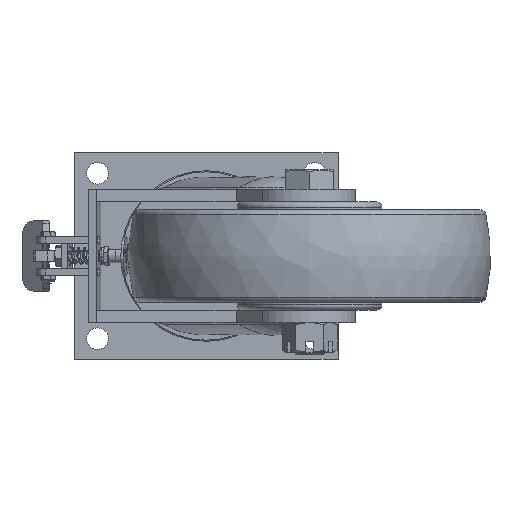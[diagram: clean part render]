
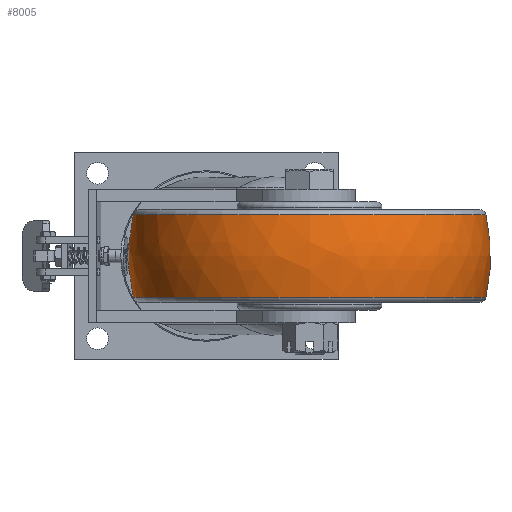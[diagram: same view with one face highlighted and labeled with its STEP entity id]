
A CAD part, front view. The second image highlights one B-rep face of the part: STEP entity #8005.
In plain terms, the highlighted free-form (B-spline) face has degree [3, 3] with [7, 4] control points.
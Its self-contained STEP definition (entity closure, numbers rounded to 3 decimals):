
#7436=CARTESIAN_POINT('',(100.,-255.,39.95));
#7437=DIRECTION('',(0.,0.,1.));
#7438=DIRECTION('',(-1.,0.,0.));
#7439=AXIS2_PLACEMENT_3D('',#7436,#7437,#7438);
#7441=CARTESIAN_POINT('',(105.,-255.,0.));
#7442=DIRECTION('',(0.,1.,0.));
#7443=DIRECTION('',(-0.975,0.,-0.222));
#7444=AXIS2_PLACEMENT_3D('',#7441,#7442,#7443);
#7446=CARTESIAN_POINT('',(95.,-255.,0.));
#7447=DIRECTION('',(0.,-1.,0.));
#7448=DIRECTION('',(0.975,0.,-0.222));
#7449=AXIS2_PLACEMENT_3D('',#7446,#7447,#7448);
#7451=CARTESIAN_POINT('',(100.,-255.,-39.95));
#7452=DIRECTION('',(0.,0.,1.));
#7453=DIRECTION('',(-1.,0.,0.));
#7454=AXIS2_PLACEMENT_3D('',#7451,#7452,#7453);
#7623=CARTESIAN_POINT('',(-70.511,-255.,-39.95));
#7624=VERTEX_POINT('',#7623);
#7625=CARTESIAN_POINT('',(-70.511,-255.,39.95));
#7626=VERTEX_POINT('',#7625);
#7659=CARTESIAN_POINT('',(270.511,-255.,-39.95));
#7660=VERTEX_POINT('',#7659);
#7661=CARTESIAN_POINT('',(270.511,-255.,39.95));
#7662=VERTEX_POINT('',#7661);
#7967=CARTESIAN_POINT('',(269.81,-244.316,41.519));
#7968=CARTESIAN_POINT('',(276.299,-243.908,14.093));
#7969=CARTESIAN_POINT('',(276.299,-243.908,
-14.093));
#7970=CARTESIAN_POINT('',(269.81,-244.316,
-41.519));
#7971=CARTESIAN_POINT('',(276.385,-348.818,41.519));
#7972=CARTESIAN_POINT('',(283.125,-352.402,14.093));
#7973=CARTESIAN_POINT('',(283.125,-352.402,
-14.093));
#7974=CARTESIAN_POINT('',(276.385,-348.818,
-41.519));
#7975=CARTESIAN_POINT('',(204.708,-425.146,41.519));
#7976=CARTESIAN_POINT('',(208.709,-431.648,14.093));
#7977=CARTESIAN_POINT('',(208.709,-431.648,
-14.093));
#7978=CARTESIAN_POINT('',(204.708,-425.146,
-41.519));
#7979=CARTESIAN_POINT('',(100.,-425.146,41.519));
#7980=CARTESIAN_POINT('',(100.,-431.648,14.093));
#7981=CARTESIAN_POINT('',(100.,-431.648,-14.093));
#7982=CARTESIAN_POINT('',(100.,-425.146,-41.519));
#7983=CARTESIAN_POINT('',(-4.708,-425.146,
41.519));
#7984=CARTESIAN_POINT('',(-8.709,-431.648,
14.093));
#7985=CARTESIAN_POINT('',(-8.709,-431.648,
-14.093));
#7986=CARTESIAN_POINT('',(-4.708,-425.146,
-41.519));
#7987=CARTESIAN_POINT('',(-76.385,-348.818,
41.519));
#7988=CARTESIAN_POINT('',(-83.125,-352.402,
14.093));
#7989=CARTESIAN_POINT('',(-83.125,-352.402,
-14.093));
#7990=CARTESIAN_POINT('',(-76.385,-348.818,
-41.519));
#7991=CARTESIAN_POINT('',(-69.81,-244.316,
41.519));
#7992=CARTESIAN_POINT('',(-76.299,-243.908,
14.093));
#7993=CARTESIAN_POINT('',(-76.299,-243.908,
-14.093));
#7994=CARTESIAN_POINT('',(-69.81,-244.316,
-41.519));
#7995=(BOUNDED_SURFACE()B_SPLINE_SURFACE(3,3,((#7967,#7968,#7969,#7970),(#7971,
#7972,#7973,#7974),(#7975,#7976,#7977,#7978),(#7979,#7980,#7981,#7982),(#7983,
#7984,#7985,#7986),(#7987,#7988,#7989,#7990),(#7991,#7992,#7993,#7994)),
.UNSPECIFIED.,.F.,.F.,.F.)B_SPLINE_SURFACE_WITH_KNOTS((4,3,4),(4,4),(0.,1.,
2.),(0.,1.),.UNSPECIFIED.)GEOMETRIC_REPRESENTATION_ITEM()RATIONAL_B_SPLINE_SURFACE(((1.203,1.182,1.182,1.203),(
0.95,0.933,0.933,0.95),(
0.95,0.933,0.933,0.95),(
1.203,1.182,1.182,1.203),(
0.95,0.933,0.933,0.95),(
0.95,0.933,0.933,0.95),(
1.203,1.182,1.182,1.203)))REPRESENTATION_ITEM('')SURFACE());
#7997=ORIENTED_EDGE('',*,*,#7996,.T.);
#7998=ORIENTED_EDGE('',*,*,#7955,.T.);
#8000=ORIENTED_EDGE('',*,*,#7999,.F.);
#8002=ORIENTED_EDGE('',*,*,#8001,.F.);
#8003=EDGE_LOOP('',(#7997,#7998,#8000,#8002));
#8004=FACE_OUTER_BOUND('',#8003,.F.);
#7440=CIRCLE('',#7439,170.511);
#7445=CIRCLE('',#7444,180.);
#7450=CIRCLE('',#7449,180.);
#7455=CIRCLE('',#7454,170.511);
#7955=EDGE_CURVE('',#7626,#7662,#7440,.T.);
#7996=EDGE_CURVE('',#7624,#7626,#7445,.T.);
#7999=EDGE_CURVE('',#7660,#7662,#7450,.T.);
#8001=EDGE_CURVE('',#7624,#7660,#7455,.T.);
#8005=ADVANCED_FACE('',(#8004),#7995,.T.);
